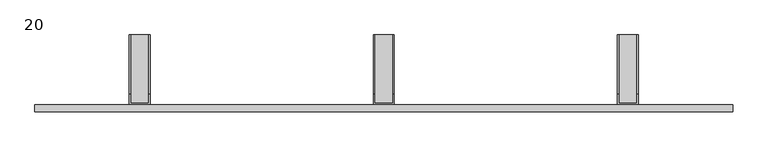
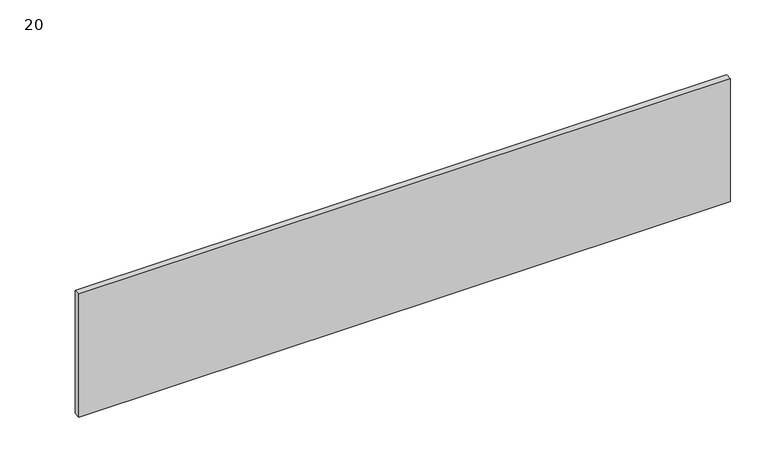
"""IFC4 building model written with IfcOpenShell, lengths in millimetres: proxy geometry, Betobord LS : 20."""

from ifc_helpers import new_model, si_unit, origin, origin_with_axes, place, context, project, spatial, polyline, outline, extrude, faceted_brep, source, transform, mapped, element, save


def proxy_20_63aa7d4d(model_context):
    return source(origin(), model_context, "Body", "SolidModel", [
        faceted_brep([(835.0, 110.0, 0.0), (835.0, 110.0, 15.0), (837.0, 110.0, 15.0), (837.0, 110.0, 2.0), (863.0, 110.0, 2.0), (863.0, 110.0, 15.0), (865.0, 110.0, 15.0), (865.0, 110.0, 0.0), (835.0, 10.0, 0.0), (835.0, 10.0, 150.0), (835.0, 25.0, 150.0), (835.0, 25.0, 15.0), (837.0, 25.0, 15.0), (837.0, 25.0, 150.0), (837.0, 12.0, 150.0), (837.0, 12.0, 2.0), (863.0, 12.0, 2.0), (863.0, 12.0, 150.0), (863.0, 25.0, 150.0), (863.0, 25.0, 15.0), (865.0, 25.0, 15.0), (865.0, 25.0, 150.0), (865.0, 10.0, 150.0), (865.0, 10.0, 0.0)], [[[0, 1, 2, 3, 4, 5, 6, 7]], [[1, 0, 8, 9, 10, 11]], [[2, 1, 11, 12]], [[3, 2, 12, 13, 14, 15]], [[4, 3, 15, 16]], [[5, 4, 16, 17, 18, 19]], [[6, 5, 19, 20]], [[7, 6, 20, 21, 22, 23]], [[0, 7, 23, 8]], [[9, 22, 21, 18, 17, 14, 13, 10]], [[12, 11, 10, 13]], [[16, 15, 14, 17]], [[20, 19, 18, 21]], [[8, 23, 22, 9]]]),
        faceted_brep([(485.0, 110.0, 0.0), (485.0, 110.0, 15.0), (487.0, 110.0, 15.0), (487.0, 110.0, 2.0), (513.0, 110.0, 2.0), (513.0, 110.0, 15.0), (515.0, 110.0, 15.0), (515.0, 110.0, 0.0), (485.0, 10.0, 0.0), (485.0, 10.0, 150.0), (485.0, 25.0, 150.0), (485.0, 25.0, 15.0), (487.0, 25.0, 15.0), (487.0, 25.0, 150.0), (487.0, 12.0, 150.0), (487.0, 12.0, 2.0), (513.0, 12.0, 2.0), (513.0, 12.0, 150.0), (513.0, 25.0, 150.0), (513.0, 25.0, 15.0), (515.0, 25.0, 15.0), (515.0, 25.0, 150.0), (515.0, 10.0, 150.0), (515.0, 10.0, 0.0)], [[[0, 1, 2, 3, 4, 5, 6, 7]], [[1, 0, 8, 9, 10, 11]], [[2, 1, 11, 12]], [[3, 2, 12, 13, 14, 15]], [[4, 3, 15, 16]], [[5, 4, 16, 17, 18, 19]], [[6, 5, 19, 20]], [[7, 6, 20, 21, 22, 23]], [[0, 7, 23, 8]], [[9, 22, 21, 18, 17, 14, 13, 10]], [[12, 11, 10, 13]], [[16, 15, 14, 17]], [[20, 19, 18, 21]], [[8, 23, 22, 9]]]),
        faceted_brep([(135.0, 110.0, 0.0), (135.0, 110.0, 15.0), (137.0, 110.0, 15.0), (137.0, 110.0, 2.0), (163.0, 110.0, 2.0), (163.0, 110.0, 15.0), (165.0, 110.0, 15.0), (165.0, 110.0, 0.0), (135.0, 10.0, 0.0), (135.0, 10.0, 150.0), (135.0, 25.0, 150.0), (135.0, 25.0, 15.0), (137.0, 25.0, 15.0), (137.0, 25.0, 150.0), (137.0, 12.0, 150.0), (137.0, 12.0, 2.0), (163.0, 12.0, 2.0), (163.0, 12.0, 150.0), (163.0, 25.0, 150.0), (163.0, 25.0, 15.0), (165.0, 25.0, 15.0), (165.0, 25.0, 150.0), (165.0, 10.0, 150.0), (165.0, 10.0, 0.0)], [[[0, 1, 2, 3, 4, 5, 6, 7]], [[1, 0, 8, 9, 10, 11]], [[2, 1, 11, 12]], [[3, 2, 12, 13, 14, 15]], [[4, 3, 15, 16]], [[5, 4, 16, 17, 18, 19]], [[6, 5, 19, 20]], [[7, 6, 20, 21, 22, 23]], [[0, 7, 23, 8]], [[9, 22, 21, 18, 17, 14, 13, 10]], [[12, 11, 10, 13]], [[16, 15, 14, 17]], [[20, 19, 18, 21]], [[8, 23, 22, 9]]]),
        extrude(outline(polyline([(1000.0, 10.0), (1000.0, 0.0), (0.0, 0.0), (0.0, 10.0), (1000.0, 10.0)])), origin_with_axes(), (0.0, 0.0, 1.0), 200.0),
    ])


if __name__ == "__main__":
    model = new_model("IFC4")
    model_context = context("Model", 3, world=origin())
    ifc_project = project(units=[si_unit("LENGTHUNIT", "METRE", prefix="MILLI")], contexts=[model_context])
    site = spatial("IfcSite", under=ifc_project)
    building = spatial("IfcBuilding", under=site)
    placement = place(None, origin())
    proxy_20_shape = proxy_20_63aa7d4d(model_context)
    element("IfcBuildingElementProxy", 1, Name="Betobord LS : 20", ObjectType="Betobord LS : 20", at=placement, inside=building, context=model_context, shape_type="MappedRepresentation", body=[
        mapped(proxy_20_shape, transform((0.0, 0.0, 0.0), x_axis=(1.0, 0.0, 0.0), y_axis=(0.0, 1.0, 0.0), z_axis=(0.0, 0.0, 1.0))),
    ])
    save(model, "model.ifc")
